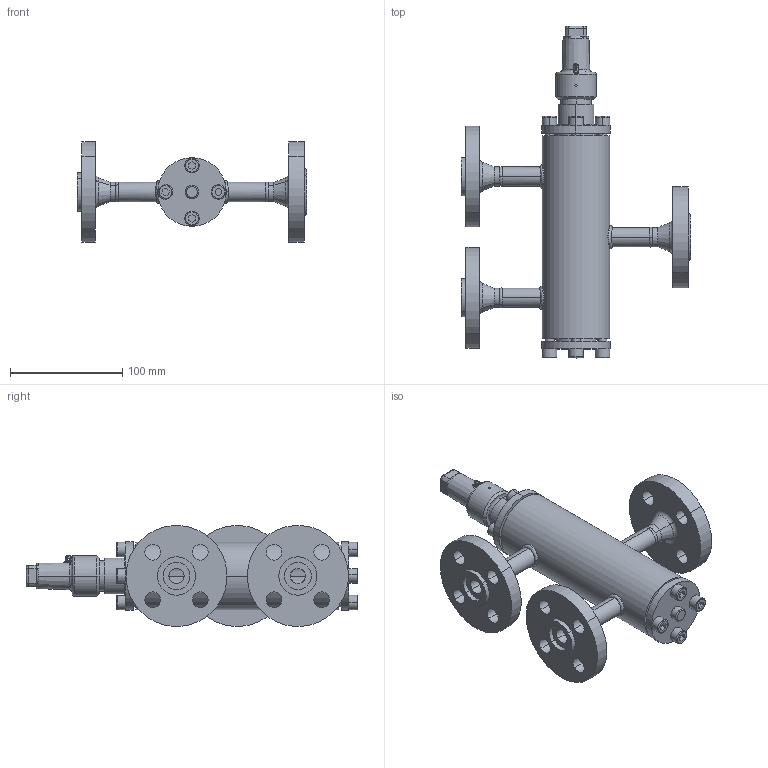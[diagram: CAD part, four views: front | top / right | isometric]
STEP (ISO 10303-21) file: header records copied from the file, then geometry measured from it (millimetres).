
FILE_DESCRIPTION (( 'STEP AP214' ), '1' );
FILE_NAME ('WVB23020D08-DN010_DIN-FL-N-F_PS40.STEP', '2010-09-08T08:34:59', ( 'Eckhard Grams' ), ( 'AWP Kälte Klima Armaturen GmbH' ), 'SwSTEP 2.0', 'SolidWorks 2002296', '' );
FILE_SCHEMA (( 'AUTOMOTIVE_DESIGN' ));
Length unit declared in the file: millimetre
Products named in the file (18): WVB23020D08-DN010_DIN-FL-N-F_PS40; Geh,kpl24020E08-DN10_DIN-FL-N-F_PS40_Standard; Flansch-DIN2635-Nut_PS40_DIN-Flansch-DN010_PS40-Nut; Geh,kpl24000E08_DN10_R1_PS40_Standard; Gehäuse24000E08-DN10_R1_PS40_Standard; Rohrstutzen-24000E08-DN10_R1_Standard; Schw-24000E08-DN10_Standard; Flansch-DIN2635-Feder_PS40_DIN-Flansch-DN010_PS40-Feder; bead24020-08-2_Standard; bead24020-08-1_Standard; bead24020-08-3_Standard; AVB16300K10_Deck+Schr-DN10-20_Standard; Deckel16300K10-DN10-20_Standard; Zylinderschraube-DIN912_M 8x  16; WVB-R23000K10_Deck+Schr-DN10-20_Standard; Deckel24000E10-DN10-20_Standard; Zylinderschraube-DIN912_M 8x  25; Kappe 96300E10_DN6-20 (M27x2)_Standard
Assembly tree (28 placements, depth 4):
  WVB23020D08-DN010_DIN-FL-N-F_PS40
    Kappe 96300E10_DN6-20 (M27x2)_Standard
    AVB16300K10_Deck+Schr-DN10-20_Standard
      Zylinderschraube-DIN912_M 8x  16  x4
      Deckel16300K10-DN10-20_Standard
    WVB-R23000K10_Deck+Schr-DN10-20_Standard
      Deckel24000E10-DN10-20_Standard
      Zylinderschraube-DIN912_M 8x  25  x4
    Geh,kpl24020E08-DN10_DIN-FL-N-F_PS40_Standard
      bead24020-08-1_Standard
      Geh,kpl24000E08_DN10_R1_PS40_Standard
        Rohrstutzen-24000E08-DN10_R1_Standard  x3
        Gehäuse24000E08-DN10_R1_PS40_Standard
        Schw-24000E08-DN10_Standard  x3
      Flansch-DIN2635-Feder_PS40_DIN-Flansch-DN010_PS40-Feder  x2
      bead24020-08-2_Standard
      bead24020-08-3_Standard
      Flansch-DIN2635-Nut_PS40_DIN-Flansch-DN010_PS40-Nut
Bounding box: 204 x 295.5 x 89.66 mm (x, y, z)
Volume: 694241.9 mm3; surface area: 176420.8 mm2
Topology: 24 solids, 24 shells, 519 faces, 1179 edges, 739 vertices
Faces by surface type: cylinder 226, plane 145, cone 67, torus 47, bspline 34
Entity records: 26994 total; most frequent: CARTESIAN_POINT 17851, DIRECTION 1729, ORIENTED_EDGE 1590, EDGE_CURVE 795, AXIS2_PLACEMENT_3D 731, VERTEX_POINT 497, EDGE_LOOP 422, CIRCLE 378
